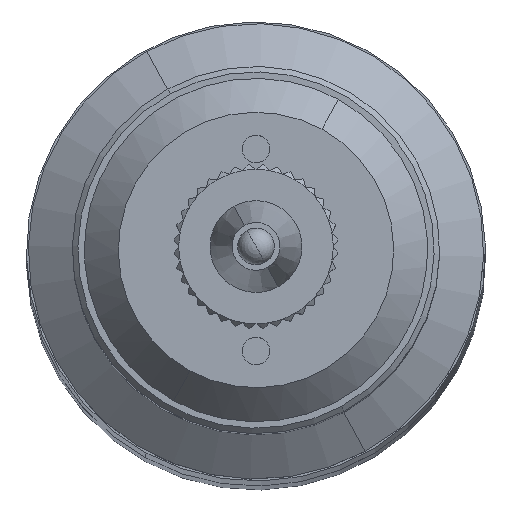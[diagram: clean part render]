
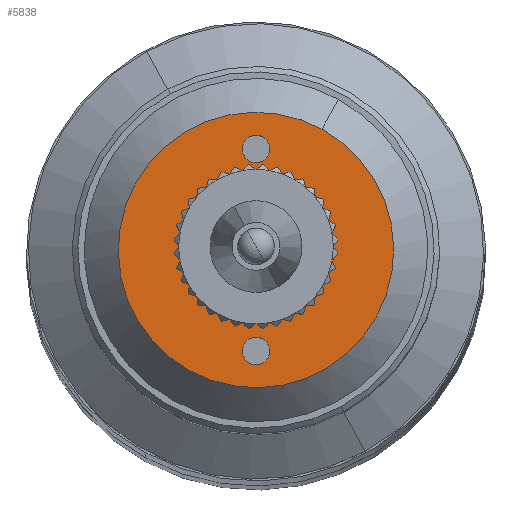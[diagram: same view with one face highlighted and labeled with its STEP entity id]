
A CAD part, top view. The second image highlights one B-rep face of the part: STEP entity #5838.
In plain terms, the highlighted planar face has unit normal (0, 0, 1).
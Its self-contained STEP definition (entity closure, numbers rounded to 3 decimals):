
#5688=AXIS2_PLACEMENT_3D('Circle Axis2P3D',#5686,#5687,$) ;
#5707=AXIS2_PLACEMENT_3D('Circle Axis2P3D',#5705,#5706,$) ;
#5738=AXIS2_PLACEMENT_3D('Circle Axis2P3D',#5736,#5737,$) ;
#5750=AXIS2_PLACEMENT_3D('Circle Axis2P3D',#5748,#5749,$) ;
#5781=AXIS2_PLACEMENT_3D('Circle Axis2P3D',#5779,#5780,$) ;
#5793=AXIS2_PLACEMENT_3D('Circle Axis2P3D',#5791,#5792,$) ;
#5806=AXIS2_PLACEMENT_3D('Plane Axis2P3D',#5803,#5804,#5805) ;
#5818=AXIS2_PLACEMENT_3D('Circle Axis2P3D',#5816,#5817,$) ;
#5827=AXIS2_PLACEMENT_3D('Circle Axis2P3D',#5825,#5826,$) ;
#5683=CARTESIAN_POINT('Vertex',(0.36,4.842,74.3)) ;
#5686=CARTESIAN_POINT('Axis2P3D Location',(0.,5.5,74.3)) ;
#5690=CARTESIAN_POINT('Vertex',(-0.36,6.158,74.3)) ;
#5705=CARTESIAN_POINT('Axis2P3D Location',(0.,5.5,74.3)) ;
#5726=CARTESIAN_POINT('Vertex',(1.918,-3.51,74.3)) ;
#5733=CARTESIAN_POINT('Vertex',(-1.918,3.51,74.3)) ;
#5736=CARTESIAN_POINT('Axis2P3D Location',(0.,0.,74.3)) ;
#5748=CARTESIAN_POINT('Axis2P3D Location',(0.,0.,74.3)) ;
#5769=CARTESIAN_POINT('Vertex',(3.596,6.582,74.3)) ;
#5776=CARTESIAN_POINT('Vertex',(-3.596,-6.582,74.3)) ;
#5779=CARTESIAN_POINT('Axis2P3D Location',(0.,0.,74.3)) ;
#5791=CARTESIAN_POINT('Axis2P3D Location',(0.,0.,74.3)) ;
#5803=CARTESIAN_POINT('Axis2P3D Location',(0.,-4.15,74.3)) ;
#5816=CARTESIAN_POINT('Axis2P3D Location',(0.,-5.5,74.3)) ;
#5820=CARTESIAN_POINT('Vertex',(-0.36,-4.842,74.3)) ;
#5822=CARTESIAN_POINT('Vertex',(0.36,-6.158,74.3)) ;
#5825=CARTESIAN_POINT('Axis2P3D Location',(0.,-5.5,74.3)) ;
#5687=DIRECTION('Axis2P3D Direction',(0.,0.,1.)) ;
#5706=DIRECTION('Axis2P3D Direction',(0.,0.,1.)) ;
#5737=DIRECTION('Axis2P3D Direction',(0.,0.,1.)) ;
#5749=DIRECTION('Axis2P3D Direction',(0.,0.,1.)) ;
#5780=DIRECTION('Axis2P3D Direction',(0.,0.,-1.)) ;
#5792=DIRECTION('Axis2P3D Direction',(0.,0.,-1.)) ;
#5804=DIRECTION('Axis2P3D Direction',(0.,0.,-1.)) ;
#5805=DIRECTION('Axis2P3D XDirection',(1.,0.,0.)) ;
#5817=DIRECTION('Axis2P3D Direction',(0.,0.,-1.)) ;
#5826=DIRECTION('Axis2P3D Direction',(0.,0.,-1.)) ;
#5809=ORIENTED_EDGE('',*,*,#5783,.F.) ;
#5810=ORIENTED_EDGE('',*,*,#5795,.F.) ;
#5813=ORIENTED_EDGE('',*,*,#5740,.F.) ;
#5814=ORIENTED_EDGE('',*,*,#5752,.F.) ;
#5831=ORIENTED_EDGE('',*,*,#5824,.F.) ;
#5832=ORIENTED_EDGE('',*,*,#5829,.F.) ;
#5835=ORIENTED_EDGE('',*,*,#5692,.F.) ;
#5836=ORIENTED_EDGE('',*,*,#5709,.F.) ;
#5815=FACE_BOUND('',#5812,.T.) ;
#5833=FACE_BOUND('',#5830,.T.) ;
#5837=FACE_BOUND('',#5834,.T.) ;
#5838=ADVANCED_FACE('\X2\FF8AFF9FFF70FF82\X0\ \X2\FF8EFF9EFF83FF9EFF68FF70\X0\',(#5811,#5815,#5833,#5837),#5807,.F.) ;
#5689=CIRCLE('generated circle',#5688,0.75) ;
#5708=CIRCLE('generated circle',#5707,0.75) ;
#5739=CIRCLE('generated circle',#5738,4.) ;
#5751=CIRCLE('generated circle',#5750,4.) ;
#5782=CIRCLE('generated circle',#5781,7.5) ;
#5794=CIRCLE('generated circle',#5793,7.5) ;
#5819=CIRCLE('generated circle',#5818,0.75) ;
#5828=CIRCLE('generated circle',#5827,0.75) ;
#5692=EDGE_CURVE('',#5684,#5691,#5689,.T.) ;
#5709=EDGE_CURVE('',#5691,#5684,#5708,.T.) ;
#5740=EDGE_CURVE('',#5734,#5727,#5739,.T.) ;
#5752=EDGE_CURVE('',#5727,#5734,#5751,.T.) ;
#5783=EDGE_CURVE('',#5777,#5770,#5782,.T.) ;
#5795=EDGE_CURVE('',#5770,#5777,#5794,.T.) ;
#5824=EDGE_CURVE('',#5821,#5823,#5819,.F.) ;
#5829=EDGE_CURVE('',#5823,#5821,#5828,.F.) ;
#5808=EDGE_LOOP('',(#5809,#5810)) ;
#5812=EDGE_LOOP('',(#5813,#5814)) ;
#5830=EDGE_LOOP('',(#5831,#5832)) ;
#5834=EDGE_LOOP('',(#5835,#5836)) ;
#5811=FACE_OUTER_BOUND('',#5808,.T.) ;
#5807=PLANE('Plane',#5806) ;
#5684=VERTEX_POINT('',#5683) ;
#5691=VERTEX_POINT('',#5690) ;
#5727=VERTEX_POINT('',#5726) ;
#5734=VERTEX_POINT('',#5733) ;
#5770=VERTEX_POINT('',#5769) ;
#5777=VERTEX_POINT('',#5776) ;
#5821=VERTEX_POINT('',#5820) ;
#5823=VERTEX_POINT('',#5822) ;
